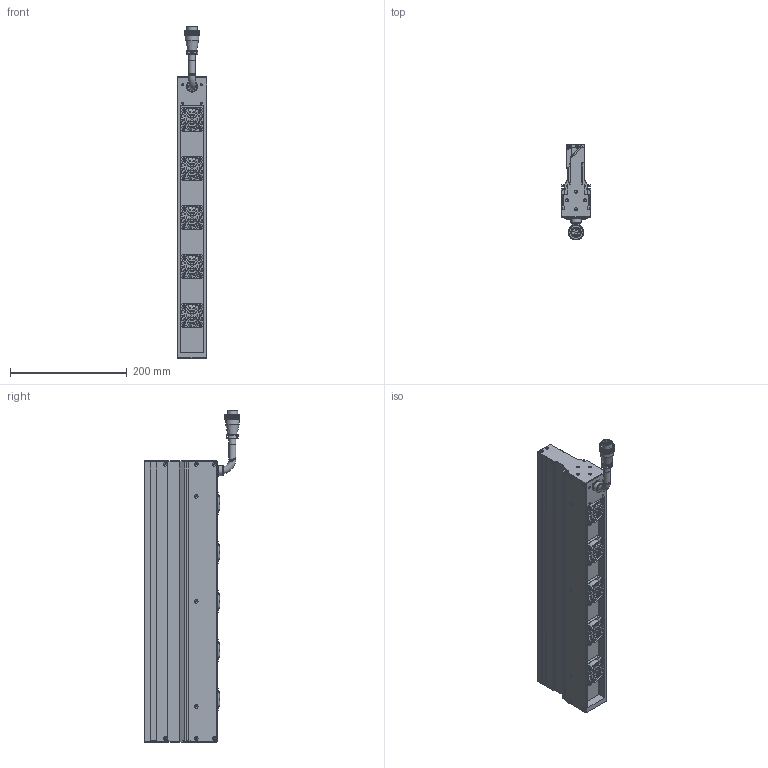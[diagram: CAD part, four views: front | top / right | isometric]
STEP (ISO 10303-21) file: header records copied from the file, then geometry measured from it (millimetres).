
FILE_DESCRIPTION (( 'STEP AP203' ), '1' );
FILE_NAME ('OPT-LSSC482-W-V3.1尨砩芞.STEP', '2025-02-05T07:02:19', ( 'USER' ), ( '' ), 'SwSTEP 2.0', 'SolidWorks 2016', '' );
FILE_SCHEMA (( 'CONFIG_CONTROL_DESIGN' ));
Products named in the file (2): OPT-LSSC482-W-V3.1尨砩芞
Bounding box: 50 x 164.5 x 569.1 mm (x, y, z)
Volume: 1866943.6 mm3; surface area: 356933.7 mm2
Topology: 25 solids, 33 shells, 2947 faces, 7543 edges, 4785 vertices
Faces by surface type: bspline 1078, cylinder 876, plane 731, torus 197, cone 65
Full cylindrical faces by diameter (mm): 1 x2, 1.6 x20, 2 x5, 2.5 x26, 3 x4, 3.2 x24, 3.4 x24, 3.5 x4, 5 x8, 6.2 x20, 8 x1, 11.6 x1, 11.7 x3, 12 x1, 15 x1, 15.9 x1, 17.5 x1, 18 x1, 18.5 x1, 22.8 x1, 24 x1, 24.8 x5, 38 x5
Entity records: 110096 total; most frequent: CARTESIAN_POINT 51351, ORIENTED_EDGE 14212, DIRECTION 7938, EDGE_CURVE 7106, VERTEX_POINT 4682, B_SPLINE_CURVE_WITH_KNOTS 4220, EDGE_LOOP 3440, FACE_OUTER_BOUND 3202
